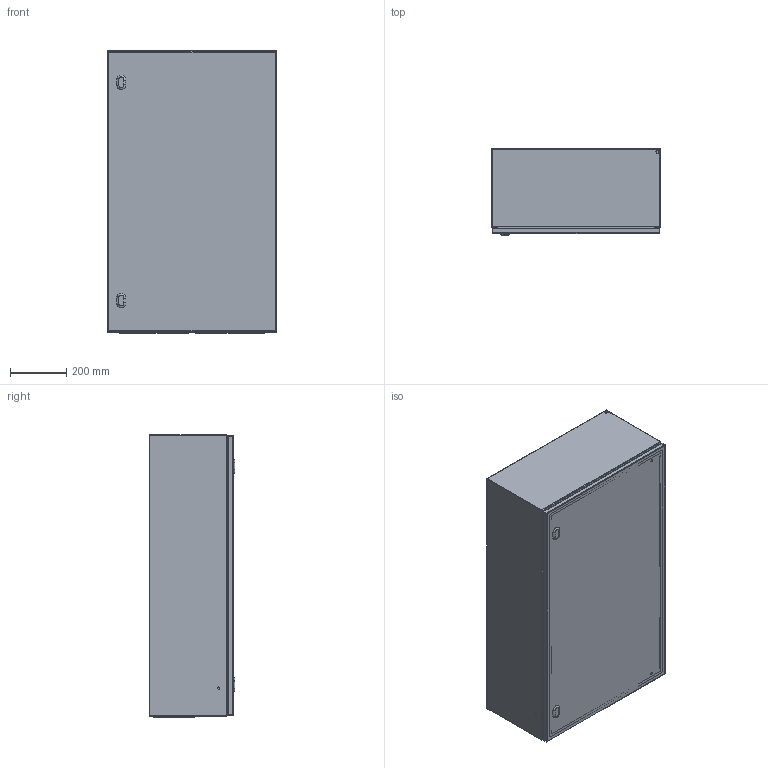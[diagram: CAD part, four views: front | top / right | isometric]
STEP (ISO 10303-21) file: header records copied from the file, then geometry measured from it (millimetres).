
FILE_DESCRIPTION(/* description */ ('STEP AP214'),/* implementation_level */ '2;1');
FILE_NAME(/* name */ 'EC061030-LOD400',/* time_stamp */ '2025-08-01T08:30:56+02:00',/* author */ ('License CC BY-ND 4.0'),/* organization */ ('CADENAS'),/* preprocessor_version */ 'ST-DEVELOPER v19.3',/* originating_system */ 'PARTsolutions',/* authorisation */ ' ');
FILE_SCHEMA (('AUTOMOTIVE_DESIGN {1 0 10303 214 3 1 1}'));
Length unit declared in the file: millimetre
Products named in the file (5): EC061030-LOD400; EC061030-LOD400_cabinet; EC061030-LOD400_door; EC061030-LOD400_bottom_plate; EC061030-LOD400_inner_plate
Assembly tree (5 placements, depth 2):
  EC061030-LOD400
    EC061030-LOD400_cabinet
    EC061030-LOD400_door
    EC061030-LOD400_bottom_plate  x2
    EC061030-LOD400_inner_plate
Bounding box: 600 x 305 x 1004 mm (x, y, z)
Volume: 5122897.8 mm3; surface area: 5765829.1 mm2
Topology: 5 solids, 5 shells, 730 faces, 1792 edges, 1166 vertices
Faces by surface type: cylinder 308, plane 264, torus 80, cone 78
Full cylindrical faces by diameter (mm): 1 x64, 4.5 x86, 5 x4, 5.5 x4, 6 x4, 7 x4, 8 x12, 10 x10, 14 x4
Entity records: 16259 total; most frequent: DIRECTION 2956, CARTESIAN_POINT 2616, ORIENTED_EDGE 2332, AXIS2_PLACEMENT_3D 1218, EDGE_CURVE 1166, EDGE_LOOP 1072, FACE_BOUND 1072, VERTEX_POINT 878
